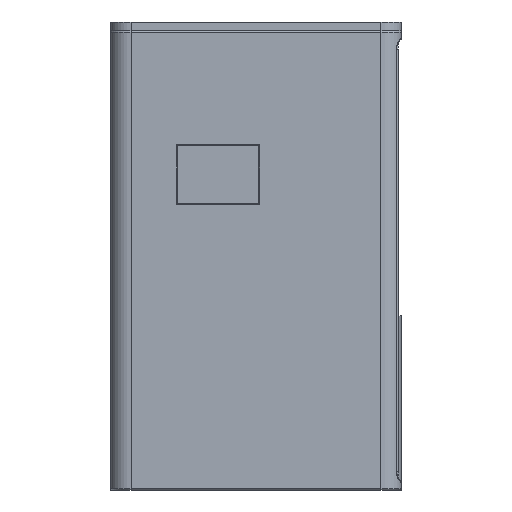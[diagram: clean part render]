
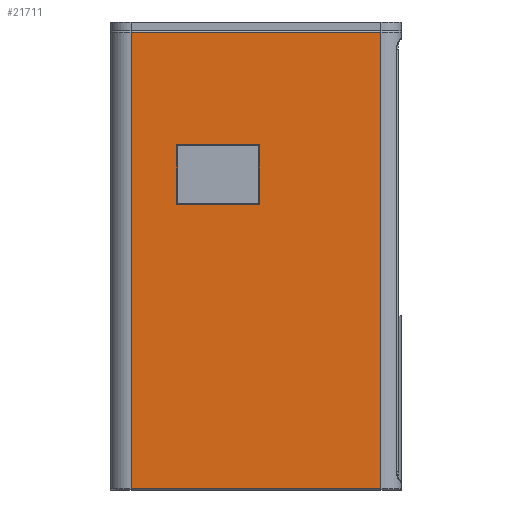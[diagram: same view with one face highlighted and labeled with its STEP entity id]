
A CAD part, left-side view. The second image highlights one B-rep face of the part: STEP entity #21711.
In plain terms, the highlighted planar face has unit normal (-1, 0, 0).
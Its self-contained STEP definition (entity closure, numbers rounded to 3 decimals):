
#16973 = CYLINDRICAL_SURFACE('',#16974,7.);
#16974 = AXIS2_PLACEMENT_3D('',#16975,#16976,#16977);
#16975 = CARTESIAN_POINT('',(7.,7.,0.));
#16976 = DIRECTION('',(0.,0.,1.));
#16977 = DIRECTION('',(-1.,-0.,0.));
#18822 = PLANE('',#18823);
#18823 = AXIS2_PLACEMENT_3D('',#18824,#18825,#18826);
#18824 = CARTESIAN_POINT('',(0.15,77.,98.35));
#18825 = DIRECTION('',(0.707,0.,
    -0.707));
#18826 = DIRECTION('',(0.,-1.,0.));
#18876 = PLANE('',#18877);
#18877 = AXIS2_PLACEMENT_3D('',#18878,#18879,#18880);
#18878 = CARTESIAN_POINT('',(0.15,77.15,98.5));
#18879 = DIRECTION('',(-0.707,-0.707,
    0.));
#18880 = DIRECTION('',(0.,0.,1.));
#18930 = PLANE('',#18931);
#18931 = AXIS2_PLACEMENT_3D('',#18932,#18933,#18934);
#18932 = CARTESIAN_POINT('',(0.15,48.85,98.5));
#18933 = DIRECTION('',(0.707,-0.707,
    0.));
#18934 = DIRECTION('',(0.,0.,1.));
#18982 = PLANE('',#18983);
#18983 = AXIS2_PLACEMENT_3D('',#18984,#18985,#18986);
#18984 = CARTESIAN_POINT('',(0.15,77.,118.65));
#18985 = DIRECTION('',(-0.707,0.,
    -0.707));
#18986 = DIRECTION('',(0.,-1.,0.));
#19078 = CYLINDRICAL_SURFACE('',#19079,0.5);
#19079 = AXIS2_PLACEMENT_3D('',#19080,#19081,#19082);
#19080 = CARTESIAN_POINT('',(0.5,7.,157.5));
#19081 = DIRECTION('',(-0.,1.,0.));
#19082 = DIRECTION('',(0.,0.,1.));
#19834 = VERTEX_POINT('',#19835);
#19835 = CARTESIAN_POINT('',(0.,7.,157.5));
#19857 = EDGE_CURVE('',#19858,#19834,#19860,.T.);
#19858 = VERTEX_POINT('',#19859);
#19859 = CARTESIAN_POINT('',(0.,7.,0.5));
#19860 = SURFACE_CURVE('',#19861,(#19865,#19872),.PCURVE_S1.);
#19861 = LINE('',#19862,#19863);
#19862 = CARTESIAN_POINT('',(0.,7.,0.));
#19863 = VECTOR('',#19864,1.);
#19864 = DIRECTION('',(0.,0.,1.));
#19865 = PCURVE('',#16973,#19866);
#19866 = DEFINITIONAL_REPRESENTATION('',(#19867),#19871);
#19867 = LINE('',#19868,#19869);
#19868 = CARTESIAN_POINT('',(0.,0.));
#19869 = VECTOR('',#19870,1.);
#19870 = DIRECTION('',(0.,1.));
#19871 = ( GEOMETRIC_REPRESENTATION_CONTEXT(2)
PARAMETRIC_REPRESENTATION_CONTEXT() REPRESENTATION_CONTEXT('2D SPACE',''
  ) );
#19872 = PCURVE('',#19873,#19878);
#19873 = PLANE('',#19874);
#19874 = AXIS2_PLACEMENT_3D('',#19875,#19876,#19877);
#19875 = CARTESIAN_POINT('',(0.,0.,0.));
#19876 = DIRECTION('',(1.,0.,-0.));
#19877 = DIRECTION('',(0.,0.,1.));
#19878 = DEFINITIONAL_REPRESENTATION('',(#19879),#19883);
#19879 = LINE('',#19880,#19881);
#19880 = CARTESIAN_POINT('',(0.,-7.));
#19881 = VECTOR('',#19882,1.);
#19882 = DIRECTION('',(1.,0.));
#19883 = ( GEOMETRIC_REPRESENTATION_CONTEXT(2)
PARAMETRIC_REPRESENTATION_CONTEXT() REPRESENTATION_CONTEXT('2D SPACE',''
  ) );
#20597 = VERTEX_POINT('',#20598);
#20598 = CARTESIAN_POINT('',(0.,77.3,98.2));
#20621 = VERTEX_POINT('',#20622);
#20622 = CARTESIAN_POINT('',(0.,48.7,98.2));
#20643 = EDGE_CURVE('',#20597,#20621,#20644,.T.);
#20644 = SURFACE_CURVE('',#20645,(#20649,#20656),.PCURVE_S1.);
#20645 = LINE('',#20646,#20647);
#20646 = CARTESIAN_POINT('',(0.,77.,98.2));
#20647 = VECTOR('',#20648,1.);
#20648 = DIRECTION('',(0.,-1.,0.));
#20649 = PCURVE('',#18822,#20650);
#20650 = DEFINITIONAL_REPRESENTATION('',(#20651),#20655);
#20651 = LINE('',#20652,#20653);
#20652 = CARTESIAN_POINT('',(0.,0.212));
#20653 = VECTOR('',#20654,1.);
#20654 = DIRECTION('',(1.,0.));
#20655 = ( GEOMETRIC_REPRESENTATION_CONTEXT(2)
PARAMETRIC_REPRESENTATION_CONTEXT() REPRESENTATION_CONTEXT('2D SPACE',''
  ) );
#20656 = PCURVE('',#19873,#20657);
#20657 = DEFINITIONAL_REPRESENTATION('',(#20658),#20662);
#20658 = LINE('',#20659,#20660);
#20659 = CARTESIAN_POINT('',(98.2,-77.));
#20660 = VECTOR('',#20661,1.);
#20661 = DIRECTION('',(0.,1.));
#20662 = ( GEOMETRIC_REPRESENTATION_CONTEXT(2)
PARAMETRIC_REPRESENTATION_CONTEXT() REPRESENTATION_CONTEXT('2D SPACE',''
  ) );
#20670 = VERTEX_POINT('',#20671);
#20671 = CARTESIAN_POINT('',(0.,77.3,118.8));
#20692 = EDGE_CURVE('',#20597,#20670,#20693,.T.);
#20693 = SURFACE_CURVE('',#20694,(#20698,#20705),.PCURVE_S1.);
#20694 = LINE('',#20695,#20696);
#20695 = CARTESIAN_POINT('',(0.,77.3,98.5));
#20696 = VECTOR('',#20697,1.);
#20697 = DIRECTION('',(0.,0.,1.));
#20698 = PCURVE('',#18876,#20699);
#20699 = DEFINITIONAL_REPRESENTATION('',(#20700),#20704);
#20700 = LINE('',#20701,#20702);
#20701 = CARTESIAN_POINT('',(0.,0.212));
#20702 = VECTOR('',#20703,1.);
#20703 = DIRECTION('',(1.,0.));
#20704 = ( GEOMETRIC_REPRESENTATION_CONTEXT(2)
PARAMETRIC_REPRESENTATION_CONTEXT() REPRESENTATION_CONTEXT('2D SPACE',''
  ) );
#20705 = PCURVE('',#19873,#20706);
#20706 = DEFINITIONAL_REPRESENTATION('',(#20707),#20711);
#20707 = LINE('',#20708,#20709);
#20708 = CARTESIAN_POINT('',(98.5,-77.3));
#20709 = VECTOR('',#20710,1.);
#20710 = DIRECTION('',(1.,0.));
#20711 = ( GEOMETRIC_REPRESENTATION_CONTEXT(2)
PARAMETRIC_REPRESENTATION_CONTEXT() REPRESENTATION_CONTEXT('2D SPACE',''
  ) );
#20719 = VERTEX_POINT('',#20720);
#20720 = CARTESIAN_POINT('',(0.,48.7,118.8));
#20741 = EDGE_CURVE('',#20621,#20719,#20742,.T.);
#20742 = SURFACE_CURVE('',#20743,(#20747,#20754),.PCURVE_S1.);
#20743 = LINE('',#20744,#20745);
#20744 = CARTESIAN_POINT('',(0.,48.7,98.5));
#20745 = VECTOR('',#20746,1.);
#20746 = DIRECTION('',(0.,0.,1.));
#20747 = PCURVE('',#18930,#20748);
#20748 = DEFINITIONAL_REPRESENTATION('',(#20749),#20753);
#20749 = LINE('',#20750,#20751);
#20750 = CARTESIAN_POINT('',(0.,0.212));
#20751 = VECTOR('',#20752,1.);
#20752 = DIRECTION('',(1.,0.));
#20753 = ( GEOMETRIC_REPRESENTATION_CONTEXT(2)
PARAMETRIC_REPRESENTATION_CONTEXT() REPRESENTATION_CONTEXT('2D SPACE',''
  ) );
#20754 = PCURVE('',#19873,#20755);
#20755 = DEFINITIONAL_REPRESENTATION('',(#20756),#20760);
#20756 = LINE('',#20757,#20758);
#20757 = CARTESIAN_POINT('',(98.5,-48.7));
#20758 = VECTOR('',#20759,1.);
#20759 = DIRECTION('',(1.,0.));
#20760 = ( GEOMETRIC_REPRESENTATION_CONTEXT(2)
PARAMETRIC_REPRESENTATION_CONTEXT() REPRESENTATION_CONTEXT('2D SPACE',''
  ) );
#20768 = EDGE_CURVE('',#20670,#20719,#20769,.T.);
#20769 = SURFACE_CURVE('',#20770,(#20774,#20781),.PCURVE_S1.);
#20770 = LINE('',#20771,#20772);
#20771 = CARTESIAN_POINT('',(0.,77.,118.8));
#20772 = VECTOR('',#20773,1.);
#20773 = DIRECTION('',(0.,-1.,0.));
#20774 = PCURVE('',#18982,#20775);
#20775 = DEFINITIONAL_REPRESENTATION('',(#20776),#20780);
#20776 = LINE('',#20777,#20778);
#20777 = CARTESIAN_POINT('',(0.,0.212));
#20778 = VECTOR('',#20779,1.);
#20779 = DIRECTION('',(1.,0.));
#20780 = ( GEOMETRIC_REPRESENTATION_CONTEXT(2)
PARAMETRIC_REPRESENTATION_CONTEXT() REPRESENTATION_CONTEXT('2D SPACE',''
  ) );
#20781 = PCURVE('',#19873,#20782);
#20782 = DEFINITIONAL_REPRESENTATION('',(#20783),#20787);
#20783 = LINE('',#20784,#20785);
#20784 = CARTESIAN_POINT('',(118.8,-77.));
#20785 = VECTOR('',#20786,1.);
#20786 = DIRECTION('',(0.,1.));
#20787 = ( GEOMETRIC_REPRESENTATION_CONTEXT(2)
PARAMETRIC_REPRESENTATION_CONTEXT() REPRESENTATION_CONTEXT('2D SPACE',''
  ) );
#20867 = VERTEX_POINT('',#20868);
#20868 = CARTESIAN_POINT('',(0.,93.,157.5));
#20905 = CYLINDRICAL_SURFACE('',#20906,7.);
#20906 = AXIS2_PLACEMENT_3D('',#20907,#20908,#20909);
#20907 = CARTESIAN_POINT('',(7.,93.,0.));
#20908 = DIRECTION('',(0.,0.,1.));
#20909 = DIRECTION('',(-1.,-0.,0.));
#20987 = EDGE_CURVE('',#19834,#20867,#20988,.T.);
#20988 = SURFACE_CURVE('',#20989,(#20993,#21000),.PCURVE_S1.);
#20989 = LINE('',#20990,#20991);
#20990 = CARTESIAN_POINT('',(0.,7.,157.5));
#20991 = VECTOR('',#20992,1.);
#20992 = DIRECTION('',(-0.,1.,0.));
#20993 = PCURVE('',#19078,#20994);
#20994 = DEFINITIONAL_REPRESENTATION('',(#20995),#20999);
#20995 = LINE('',#20996,#20997);
#20996 = CARTESIAN_POINT('',(-1.571,0.));
#20997 = VECTOR('',#20998,1.);
#20998 = DIRECTION('',(-0.,1.));
#20999 = ( GEOMETRIC_REPRESENTATION_CONTEXT(2)
PARAMETRIC_REPRESENTATION_CONTEXT() REPRESENTATION_CONTEXT('2D SPACE',''
  ) );
#21000 = PCURVE('',#19873,#21001);
#21001 = DEFINITIONAL_REPRESENTATION('',(#21002),#21006);
#21002 = LINE('',#21003,#21004);
#21003 = CARTESIAN_POINT('',(157.5,-7.));
#21004 = VECTOR('',#21005,1.);
#21005 = DIRECTION('',(0.,-1.));
#21006 = ( GEOMETRIC_REPRESENTATION_CONTEXT(2)
PARAMETRIC_REPRESENTATION_CONTEXT() REPRESENTATION_CONTEXT('2D SPACE',''
  ) );
#21675 = CYLINDRICAL_SURFACE('',#21676,0.5);
#21676 = AXIS2_PLACEMENT_3D('',#21677,#21678,#21679);
#21677 = CARTESIAN_POINT('',(0.5,7.,0.5));
#21678 = DIRECTION('',(-0.,1.,0.));
#21679 = DIRECTION('',(-1.,-0.,0.));
#21711 = ADVANCED_FACE('',(#21712,#21718),#19873,.F.);
#21712 = FACE_BOUND('',#21713,.F.);
#21713 = EDGE_LOOP('',(#21714,#21715,#21716,#21717));
#21714 = ORIENTED_EDGE('',*,*,#20643,.T.);
#21715 = ORIENTED_EDGE('',*,*,#20741,.T.);
#21716 = ORIENTED_EDGE('',*,*,#20768,.F.);
#21717 = ORIENTED_EDGE('',*,*,#20692,.F.);
#21718 = FACE_BOUND('',#21719,.F.);
#21719 = EDGE_LOOP('',(#21720,#21721,#21744,#21765));
#21720 = ORIENTED_EDGE('',*,*,#19857,.F.);
#21721 = ORIENTED_EDGE('',*,*,#21722,.T.);
#21722 = EDGE_CURVE('',#19858,#21723,#21725,.T.);
#21723 = VERTEX_POINT('',#21724);
#21724 = CARTESIAN_POINT('',(0.,93.,0.5));
#21725 = SURFACE_CURVE('',#21726,(#21730,#21737),.PCURVE_S1.);
#21726 = LINE('',#21727,#21728);
#21727 = CARTESIAN_POINT('',(0.,7.,0.5));
#21728 = VECTOR('',#21729,1.);
#21729 = DIRECTION('',(-0.,1.,0.));
#21730 = PCURVE('',#19873,#21731);
#21731 = DEFINITIONAL_REPRESENTATION('',(#21732),#21736);
#21732 = LINE('',#21733,#21734);
#21733 = CARTESIAN_POINT('',(0.5,-7.));
#21734 = VECTOR('',#21735,1.);
#21735 = DIRECTION('',(0.,-1.));
#21736 = ( GEOMETRIC_REPRESENTATION_CONTEXT(2)
PARAMETRIC_REPRESENTATION_CONTEXT() REPRESENTATION_CONTEXT('2D SPACE',''
  ) );
#21737 = PCURVE('',#21675,#21738);
#21738 = DEFINITIONAL_REPRESENTATION('',(#21739),#21743);
#21739 = LINE('',#21740,#21741);
#21740 = CARTESIAN_POINT('',(-0.,0.));
#21741 = VECTOR('',#21742,1.);
#21742 = DIRECTION('',(-0.,1.));
#21743 = ( GEOMETRIC_REPRESENTATION_CONTEXT(2)
PARAMETRIC_REPRESENTATION_CONTEXT() REPRESENTATION_CONTEXT('2D SPACE',''
  ) );
#21744 = ORIENTED_EDGE('',*,*,#21745,.T.);
#21745 = EDGE_CURVE('',#21723,#20867,#21746,.T.);
#21746 = SURFACE_CURVE('',#21747,(#21751,#21758),.PCURVE_S1.);
#21747 = LINE('',#21748,#21749);
#21748 = CARTESIAN_POINT('',(0.,93.,0.));
#21749 = VECTOR('',#21750,1.);
#21750 = DIRECTION('',(0.,0.,1.));
#21751 = PCURVE('',#19873,#21752);
#21752 = DEFINITIONAL_REPRESENTATION('',(#21753),#21757);
#21753 = LINE('',#21754,#21755);
#21754 = CARTESIAN_POINT('',(0.,-93.));
#21755 = VECTOR('',#21756,1.);
#21756 = DIRECTION('',(1.,0.));
#21757 = ( GEOMETRIC_REPRESENTATION_CONTEXT(2)
PARAMETRIC_REPRESENTATION_CONTEXT() REPRESENTATION_CONTEXT('2D SPACE',''
  ) );
#21758 = PCURVE('',#20905,#21759);
#21759 = DEFINITIONAL_REPRESENTATION('',(#21760),#21764);
#21760 = LINE('',#21761,#21762);
#21761 = CARTESIAN_POINT('',(-0.,0.));
#21762 = VECTOR('',#21763,1.);
#21763 = DIRECTION('',(-0.,1.));
#21764 = ( GEOMETRIC_REPRESENTATION_CONTEXT(2)
PARAMETRIC_REPRESENTATION_CONTEXT() REPRESENTATION_CONTEXT('2D SPACE',''
  ) );
#21765 = ORIENTED_EDGE('',*,*,#20987,.F.);
